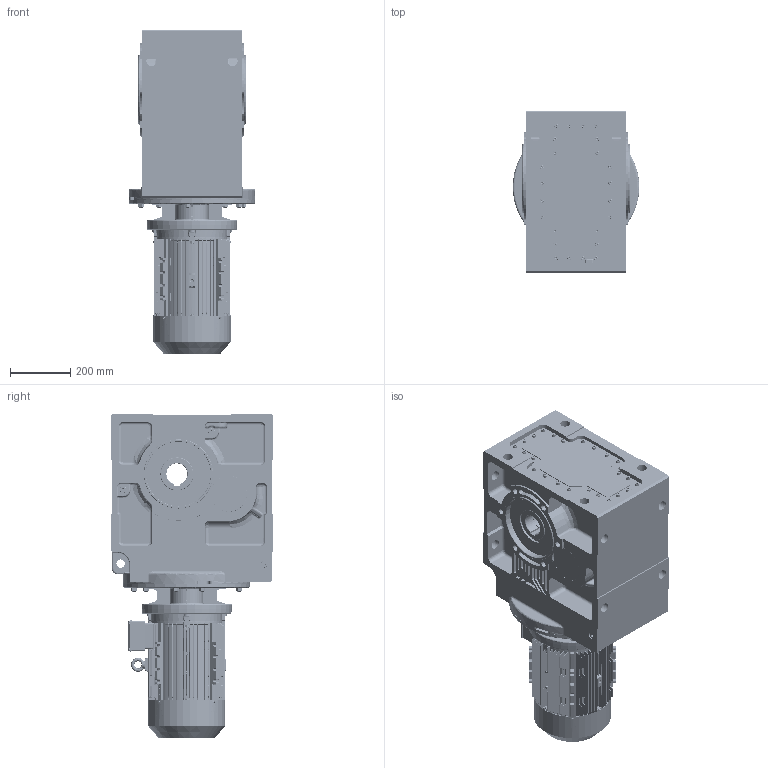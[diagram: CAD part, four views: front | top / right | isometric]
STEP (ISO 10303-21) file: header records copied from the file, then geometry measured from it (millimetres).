
FILE_DESCRIPTION (( 'STEP AP203' ), '1' );
FILE_NAME ('KV_773_0_MX3-132M.STEP', '2018-11-21T09:01:30', ( '' ), ( '' ), 'SwSTEP 2.0', 'SolidWorks 2012', '' );
FILE_SCHEMA (( 'CONFIG_CONTROL_DESIGN' ));
Products named in the file (25): KV_773_0_MX3-132M; MX3-132M_B5; cross recessed pan head screws gb_GB_CROSS_SCREWS_TYPE1 M5X12-12  H type-N_1; circlips for shaft--type a large gb_GB_CONNECTING_PIECE_RING_RRA 28; hexagon socket head cap screws gb_GB_FASTENER_SCREWS_HSHCS M8X40-N_1; hexagon flange head tapping screws gb_GB_SQUARE_AND_HEXAGON_TYPE137 ST4.2X9.5 C-N; hex nuts, style 1-grades ab gb_GB_FASTENER_NUT_SNAB1 M8-N; hexagon socket head cap screws gb_GB_FASTENER_SCREWS_HSHCS M8X45-N; spring lock washers--normal type gb_GB_FASTENER_WASHER_SW 8_1; eyebolts gb_GB_FASTENER_SCREWS_FRS M10-N_1; ﾋ-ﾀﾔ40X58X7; plain parallel keys_GB_CONNECTING_PIECE_KEYS_CSK 10X70_1; 132M B5ﾂ-ｩﾃ; 132〩仁佞蹉峔; 132〩仁佞怔; -戌呲25; 132ÀþiÍ; 132 瞬++-4; 132M 俓; deep groove ball bearings gb_Rolling bearings 6308 GB 276-94_1; 132B3ﾂ-ｩﾃ; 132M B5+ｷ+ﾃ; ML60A_Varsayìlan; 73132B5_Varsayìlan; K773_Varsayìlan
Assembly tree (52 placements, depth 3):
  KV_773_0_MX3-132M
    K773_Varsayìlan
    73132B5_Varsayìlan
    ML60A_Varsayìlan
    MX3-132M_B5
      132M B5+ｷ+ﾃ
      132B3ﾂ-ｩﾃ
      132M 俓
      deep groove ball bearings gb_Rolling bearings 6308 GB 276-94_1  x2
      132 瞬++-4
      132ÀþiÍ
      132〩仁佞蹉峔
      132〩仁佞怔
      -戌呲25  x2
      ﾋ-ﾀﾔ40X58X7
      plain parallel keys_GB_CONNECTING_PIECE_KEYS_CSK 10X70_1
      eyebolts gb_GB_FASTENER_SCREWS_FRS M10-N_1
      132M B5ﾂ-ｩﾃ
      hexagon socket head cap screws gb_GB_FASTENER_SCREWS_HSHCS M8X45-N  x4
      spring lock washers--normal type gb_GB_FASTENER_WASHER_SW 8_1  x8
      hex nuts, style 1-grades ab gb_GB_FASTENER_NUT_SNAB1 M8-N  x7
      hexagon socket head cap screws gb_GB_FASTENER_SCREWS_HSHCS M8X40-N_1  x5
      circlips for shaft--type a large gb_GB_CONNECTING_PIECE_RING_RRA 28
      hexagon flange head tapping screws gb_GB_SQUARE_AND_HEXAGON_TYPE137 ST4.2X9.5 C-N  x4
      cross recessed pan head screws gb_GB_CROSS_SCREWS_TYPE1 M5X12-12  H type-N_1  x4
Bounding box: 420 x 540 x 1078.12 mm (x, y, z)
Volume: 88936900.6 mm3; surface area: 4622522 mm2
Topology: 52 solids, 54 shells, 9530 faces, 24419 edges, 14915 vertices
Faces by surface type: plane 3286, cylinder 2470, bspline 2355, cone 899, torus 382, sphere 138
Entity records: 359389 total; most frequent: CARTESIAN_POINT 160252, ORIENTED_EDGE 44654, DIRECTION 35527, EDGE_CURVE 22327, VERTEX_POINT 13760, AXIS2_PLACEMENT_3D 12993, EDGE_LOOP 9651, LINE 9541
